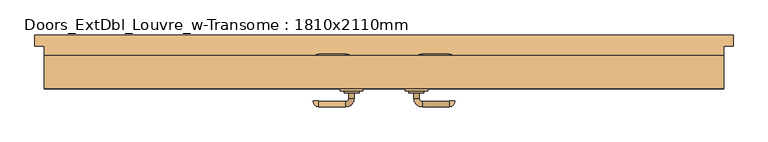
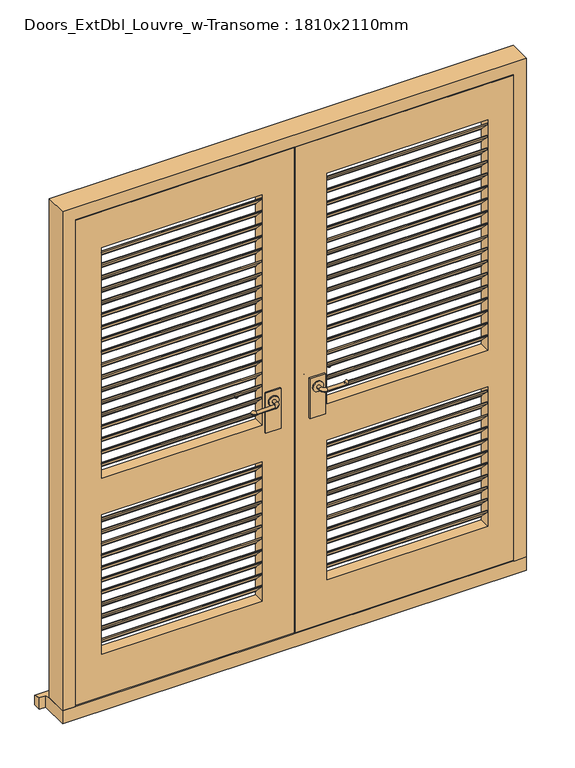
"""IFC4 building model written with IfcOpenShell, lengths in millimetres: door geometry, Doors_ExtDbl_Louvre_w-Transome : 1810x2110mm."""

from ifc_helpers import new_model, si_unit, point, frame, frame_2d, origin, place, context, project, spatial, polyline, circle_curve, ellipse_curve, trimmed, segment, composite_curve, outline, extrude, faceted_brep, source, transform, mapped, element, save
from ifc_brep_helpers import plane_surface, cylinder_surface, revolved_surface, advanced_brep


def doors_extdbl_louvre_w_transome_1810x2110mm_eca85ab6(model_context):
    return source(origin(), model_context, "Body", "SolidModel", [
        extrude(outline(composite_curve([segment(trimmed(circle_curve(frame_2d((1050.0, 86.5)), 20.0), [point((1050.0, 66.5))], [point((1050.0, 106.5))], False, "CARTESIAN"), True, "CONTINUOUS"), segment(trimmed(circle_curve(frame_2d((1050.0, 86.5)), 20.0), [point((1050.0, 106.5))], [point((1050.0, 66.5))], False, "CARTESIAN"), True, "CONTINUOUS")], self_intersect=False)), frame((0.0, -17.0929895, 0.0), z_axis=(0.0, 1.0, 0.0), x_axis=(0.0, 0.0, 1.0)), (0.0, 0.0, 1.0), 4.5929895),
        advanced_brep(
        [(93.5, -17.0929895, 1050.0), (79.5, -17.0929895, 1050.0), (79.5, -32.5, 1050.0), (93.5, -32.5, 1050.0), (101.5, -54.5, 1050.0), (101.5, -40.5, 1050.0), (173.5, -54.5, 1050.0), (173.5, -40.5, 1050.0), (174.5, -39.5, 1050.0), (188.5, -39.5, 1050.0)],
        [
            (0, 1, circle_curve(frame((86.5, -17.0929895, 1050.0), z_axis=(0.0, 1.0, 0.0), x_axis=(-1.0, 0.0, 0.0)), 7.0)),
            (1, 0, circle_curve(frame((86.5, -17.0929895, 1050.0), z_axis=(0.0, 1.0, 0.0), x_axis=(-1.0, 0.0, 0.0)), 7.0)),
            (1, 2),
            (2, 3, circle_curve(frame((86.5, -32.5, 1050.0), z_axis=(0.0, 1.0, 0.0), x_axis=(-1.0, 0.0, 0.0)), 7.0)),
            (3, 0),
            (3, 2, circle_curve(frame((86.5, -32.5, 1050.0), z_axis=(0.0, 1.0, 0.0), x_axis=(-1.0, 0.0, 0.0)), 7.0)),
            (4, 5, circle_curve(frame((101.5, -47.5, 1050.0), z_axis=(-1.0, 0.0, 0.0), x_axis=(0.0, -1.0, 0.0)), 7.0)),
            (5, 3, circle_curve(frame((101.5, -32.5, 1050.0), z_axis=(0.0, 0.0, -1.0), x_axis=(-1.0, 0.0, 0.0)), 8.0)),
            (2, 4, circle_curve(frame((101.5, -32.5, 1050.0), z_axis=(0.0, 0.0, 1.0), x_axis=(-1.0, 0.0, 0.0)), 22.0)),
            (5, 4, circle_curve(frame((101.5, -47.5, 1050.0), z_axis=(-1.0, 0.0, 0.0), x_axis=(0.0, -1.0, 0.0)), 7.0)),
            (4, 6),
            (6, 7, circle_curve(frame((173.5, -47.5, 1050.0), z_axis=(-1.0, 0.0, 0.0), x_axis=(0.0, -1.0, 0.0)), 7.0)),
            (7, 5),
            (7, 6, circle_curve(frame((173.5, -47.5, 1050.0), z_axis=(-1.0, 0.0, 0.0), x_axis=(0.0, -1.0, 0.0)), 7.0)),
            (8, 9, circle_curve(frame((181.5, -39.5, 1050.0), z_axis=(0.0, 1.0, 0.0), x_axis=(1.0, 0.0, 0.0)), 7.0)),
            (9, 8, circle_curve(frame((181.5, -39.5, 1050.0), z_axis=(0.0, 1.0, 0.0), x_axis=(1.0, 0.0, 0.0)), 7.0)),
            (8, 7, circle_curve(frame((173.5, -39.5, 1050.0), z_axis=(0.0, 0.0, -1.0), x_axis=(0.0, -1.0, 0.0)), 1.0)),
            (6, 9, circle_curve(frame((173.5, -39.5, 1050.0), z_axis=(0.0, 0.0, 1.0), x_axis=(0.0, -1.0, 0.0)), 15.0)),
        ],
        [
            plane_surface(frame((86.5, -17.0929895, 1050.0), z_axis=(0.0, 1.0, 0.0), x_axis=(0.0, 0.0, 1.0))),
            cylinder_surface(frame((86.5, -17.0929895, 1050.0), z_axis=(0.0, 1.0, 0.0), x_axis=(-1.0, 0.0, 0.0)), 7.0),
            revolved_surface(trimmed(ellipse_curve(frame((86.5, -32.5, 1050.0), z_axis=(0.0, -1.0, 0.0), x_axis=(-1.0, 0.0, 0.0)), 7.0, 7.0), [point((93.5, -32.5, 1050.0))], [point((79.5, -32.5, 1050.0))], True, "CARTESIAN"), (101.5, -32.5, 1050.0), (0.0, 0.0, -1.0)),
            revolved_surface(trimmed(ellipse_curve(frame((86.5, -32.5, 1050.0), z_axis=(0.0, -1.0, 0.0), x_axis=(-1.0, 0.0, 0.0)), 7.0, 7.0), [point((79.5, -32.5, 1050.0))], [point((93.5, -32.5, 1050.0))], True, "CARTESIAN"), (101.5, -32.5, 1050.0), (0.0, 0.0, -1.0)),
            cylinder_surface(frame((101.5, -47.5, 1050.0), z_axis=(-1.0, 0.0, 0.0), x_axis=(0.0, -1.0, 0.0)), 7.0),
            plane_surface(frame((181.5, -39.5, 1050.0), z_axis=(0.0, 1.0, 0.0), x_axis=(0.0, 0.0, 1.0))),
            revolved_surface(trimmed(ellipse_curve(frame((173.5, -47.5, 1050.0), z_axis=(1.0, 0.0, 0.0), x_axis=(0.0, -1.0, 0.0)), 7.0, 7.0), [point((173.5, -40.5, 1050.0))], [point((173.5, -54.5, 1050.0))], True, "CARTESIAN"), (173.5, -39.5, 1050.0), (0.0, 0.0, -1.0)),
            revolved_surface(trimmed(ellipse_curve(frame((173.5, -47.5, 1050.0), z_axis=(1.0, 0.0, 0.0), x_axis=(0.0, -1.0, 0.0)), 7.0, 7.0), [point((173.5, -54.5, 1050.0))], [point((173.5, -40.5, 1050.0))], True, "CARTESIAN"), (173.5, -39.5, 1050.0), (0.0, 0.0, -1.0)),
        ],
        [
            (0, [[1, 2]]),
            (1, [[3, 4, 5, -2]]),
            (1, [[-5, 6, -3, -1]]),
            (2, [[7, 8, -4, 9]]),
            (3, [[10, -9, -6, -8]]),
            (4, [[11, 12, 13, -7]]),
            (4, [[-13, 14, -11, -10]]),
            (5, [[15, 16]]),
            (6, [[-15, 17, -12, 18]]),
            (7, [[-16, -18, -14, -17]]),
        ],
    ),
        extrude(outline(polyline([(116.5, -6.5), (116.5, -12.5), (56.5, -12.5), (56.5, -6.5), (116.5, -6.5)])), frame((0.0, 0.0, 925.0), z_axis=(0.0, 0.0, 1.0), x_axis=(1.0, 0.0, 0.0)), (0.0, 0.0, 1.0), 165.0),
        extrude(outline(composite_curve([segment(trimmed(circle_curve(frame_2d((1050.0, -86.5)), 20.0), [point((1050.0, -66.5))], [point((1050.0, -106.5))], False, "CARTESIAN"), True, "CONTINUOUS"), segment(trimmed(circle_curve(frame_2d((1050.0, -86.5)), 20.0), [point((1050.0, -106.5))], [point((1050.0, -66.5))], False, "CARTESIAN"), True, "CONTINUOUS")], self_intersect=False)), frame((0.0, -17.0929895, 0.0), z_axis=(0.0, 1.0, 0.0), x_axis=(0.0, 0.0, 1.0)), (0.0, 0.0, 1.0), 4.5929895),
        advanced_brep(
        [(-93.5, -17.0929895, 1050.0), (-79.5, -17.0929895, 1050.0), (-93.5, -32.5, 1050.0), (-79.5, -32.5, 1050.0), (-101.5, -54.5, 1050.0), (-101.5, -40.5, 1050.0), (-173.5, -40.5, 1050.0), (-173.5, -54.5, 1050.0), (-174.5, -39.5, 1050.0), (-188.5, -39.5, 1050.0)],
        [
            (0, 1, circle_curve(frame((-86.5, -17.0929895, 1050.0), z_axis=(0.0, 1.0, 0.0), x_axis=(1.0, 0.0, 0.0)), 7.0)),
            (1, 0, circle_curve(frame((-86.5, -17.0929895, 1050.0), z_axis=(0.0, 1.0, 0.0), x_axis=(1.0, 0.0, 0.0)), 7.0)),
            (0, 2),
            (2, 3, circle_curve(frame((-86.5, -32.5, 1050.0), z_axis=(0.0, 1.0, 0.0), x_axis=(1.0, 0.0, 0.0)), 7.0)),
            (3, 1),
            (3, 2, circle_curve(frame((-86.5, -32.5, 1050.0), z_axis=(0.0, 1.0, 0.0), x_axis=(1.0, 0.0, 0.0)), 7.0)),
            (4, 3, circle_curve(frame((-101.5, -32.5, 1050.0), z_axis=(0.0, 0.0, 1.0), x_axis=(1.0, 0.0, 0.0)), 22.0)),
            (2, 5, circle_curve(frame((-101.5, -32.5, 1050.0), z_axis=(0.0, 0.0, -1.0), x_axis=(1.0, 0.0, 0.0)), 8.0)),
            (5, 4, circle_curve(frame((-101.5, -47.5, 1050.0), z_axis=(1.0, 0.0, 0.0), x_axis=(0.0, -1.0, 0.0)), 7.0)),
            (4, 5, circle_curve(frame((-101.5, -47.5, 1050.0), z_axis=(1.0, 0.0, 0.0), x_axis=(0.0, -1.0, 0.0)), 7.0)),
            (5, 6),
            (6, 7, circle_curve(frame((-173.5, -47.5, 1050.0), z_axis=(1.0, 0.0, 0.0), x_axis=(0.0, -1.0, 0.0)), 7.0)),
            (7, 4),
            (7, 6, circle_curve(frame((-173.5, -47.5, 1050.0), z_axis=(1.0, 0.0, 0.0), x_axis=(0.0, -1.0, 0.0)), 7.0)),
            (8, 9, circle_curve(frame((-181.5, -39.5, 1050.0), z_axis=(0.0, 1.0, 0.0), x_axis=(-1.0, 0.0, 0.0)), 7.0)),
            (9, 8, circle_curve(frame((-181.5, -39.5, 1050.0), z_axis=(0.0, 1.0, 0.0), x_axis=(-1.0, 0.0, 0.0)), 7.0)),
            (9, 7, circle_curve(frame((-173.5, -39.5, 1050.0), z_axis=(0.0, 0.0, 1.0), x_axis=(0.0, -1.0, 0.0)), 15.0)),
            (6, 8, circle_curve(frame((-173.5, -39.5, 1050.0), z_axis=(0.0, 0.0, -1.0), x_axis=(0.0, -1.0, 0.0)), 1.0)),
        ],
        [
            plane_surface(frame((-86.5, -17.0929895, 1050.0), z_axis=(0.0, 1.0, 0.0), x_axis=(0.0, 0.0, 1.0))),
            cylinder_surface(frame((-86.5, -17.0929895, 1050.0), z_axis=(0.0, 1.0, 0.0), x_axis=(1.0, 0.0, 0.0)), 7.0),
            revolved_surface(trimmed(ellipse_curve(frame((-86.5, -32.5, 1050.0), z_axis=(0.0, 1.0, 0.0), x_axis=(1.0, 0.0, 0.0)), 7.0, 7.0), [point((-93.5, -32.5, 1050.0))], [point((-79.5, -32.5, 1050.0))], True, "CARTESIAN"), (-101.5, -32.5, 1050.0), (0.0, 0.0, -1.0)),
            revolved_surface(trimmed(ellipse_curve(frame((-86.5, -32.5, 1050.0), z_axis=(0.0, 1.0, 0.0), x_axis=(1.0, 0.0, 0.0)), 7.0, 7.0), [point((-79.5, -32.5, 1050.0))], [point((-93.5, -32.5, 1050.0))], True, "CARTESIAN"), (-101.5, -32.5, 1050.0), (0.0, 0.0, -1.0)),
            cylinder_surface(frame((-101.5, -47.5, 1050.0), z_axis=(1.0, 0.0, 0.0), x_axis=(0.0, -1.0, 0.0)), 7.0),
            plane_surface(frame((-181.5, -39.5, 1050.0), z_axis=(0.0, 1.0, 0.0), x_axis=(0.0, 0.0, 1.0))),
            revolved_surface(trimmed(ellipse_curve(frame((-173.5, -47.5, 1050.0), z_axis=(1.0, 0.0, 0.0), x_axis=(0.0, -1.0, 0.0)), 7.0, 7.0), [point((-173.5, -40.5, 1050.0))], [point((-173.5, -54.5, 1050.0))], True, "CARTESIAN"), (-173.5, -39.5, 1050.0), (0.0, 0.0, -1.0)),
            revolved_surface(trimmed(ellipse_curve(frame((-173.5, -47.5, 1050.0), z_axis=(1.0, 0.0, 0.0), x_axis=(0.0, -1.0, 0.0)), 7.0, 7.0), [point((-173.5, -54.5, 1050.0))], [point((-173.5, -40.5, 1050.0))], True, "CARTESIAN"), (-173.5, -39.5, 1050.0), (0.0, 0.0, -1.0)),
        ],
        [
            (0, [[1, 2]]),
            (1, [[-1, 3, 4, 5]]),
            (1, [[-2, -5, 6, -3]]),
            (2, [[7, -4, 8, 9]]),
            (3, [[-8, -6, -7, 10]]),
            (4, [[-9, 11, 12, 13]]),
            (4, [[-10, -13, 14, -11]]),
            (5, [[15, 16]]),
            (6, [[17, -12, 18, -16]]),
            (7, [[-18, -14, -17, -15]]),
        ],
    ),
        extrude(outline(polyline([(-116.5, -6.5), (-56.5, -6.5), (-56.5, -12.5), (-116.5, -12.5), (-116.5, -6.5)])), frame((0.0, 0.0, 925.0), z_axis=(0.0, 0.0, 1.0), x_axis=(1.0, 0.0, 0.0)), (0.0, 0.0, 1.0), 165.0),
        extrude(outline(composite_curve([segment(trimmed(circle_curve(frame_2d((1050.0, -86.5)), 20.0), [point((1050.0, -66.5))], [point((1050.0, -106.5))], False, "CARTESIAN"), True, "CONTINUOUS"), segment(trimmed(circle_curve(frame_2d((1050.0, -86.5)), 20.0), [point((1050.0, -106.5))], [point((1050.0, -66.5))], False, "CARTESIAN"), True, "CONTINUOUS")], self_intersect=False)), frame((0.0, 43.5, 0.0), z_axis=(0.0, 1.0, 0.0), x_axis=(0.0, 0.0, 1.0)), (0.0, 0.0, 1.0), 4.5929895),
        advanced_brep(
        [(-93.5, 48.0929895, 1050.0), (-79.5, 48.0929895, 1050.0), (-79.5, 63.5, 1050.0), (-93.5, 63.5, 1050.0), (-101.5, 85.5, 1050.0), (-101.5, 71.5, 1050.0), (-173.5, 85.5, 1050.0), (-173.5, 71.5, 1050.0), (-174.5, 70.5, 1050.0), (-188.5, 70.5, 1050.0)],
        [
            (0, 1, circle_curve(frame((-86.5, 48.0929895, 1050.0), z_axis=(0.0, -1.0, 0.0), x_axis=(1.0, 0.0, 0.0)), 7.0)),
            (1, 0, circle_curve(frame((-86.5, 48.0929895, 1050.0), z_axis=(0.0, -1.0, 0.0), x_axis=(1.0, 0.0, 0.0)), 7.0)),
            (1, 2),
            (2, 3, circle_curve(frame((-86.5, 63.5, 1050.0), z_axis=(0.0, -1.0, 0.0), x_axis=(1.0, 0.0, 0.0)), 7.0)),
            (3, 0),
            (3, 2, circle_curve(frame((-86.5, 63.5, 1050.0), z_axis=(0.0, -1.0, 0.0), x_axis=(1.0, 0.0, 0.0)), 7.0)),
            (4, 5, circle_curve(frame((-101.5, 78.5, 1050.0), z_axis=(1.0, 0.0, 0.0), x_axis=(0.0, 1.0, 0.0)), 7.0)),
            (5, 3, circle_curve(frame((-101.5, 63.5, 1050.0), z_axis=(0.0, 0.0, -1.0), x_axis=(1.0, 0.0, 0.0)), 8.0)),
            (2, 4, circle_curve(frame((-101.5, 63.5, 1050.0), z_axis=(0.0, 0.0, 1.0), x_axis=(1.0, 0.0, 0.0)), 22.0)),
            (5, 4, circle_curve(frame((-101.5, 78.5, 1050.0), z_axis=(1.0, 0.0, 0.0), x_axis=(0.0, 1.0, 0.0)), 7.0)),
            (4, 6),
            (6, 7, circle_curve(frame((-173.5, 78.5, 1050.0), z_axis=(1.0, 0.0, 0.0), x_axis=(0.0, 1.0, 0.0)), 7.0)),
            (7, 5),
            (7, 6, circle_curve(frame((-173.5, 78.5, 1050.0), z_axis=(1.0, 0.0, 0.0), x_axis=(0.0, 1.0, 0.0)), 7.0)),
            (8, 9, circle_curve(frame((-181.5, 70.5, 1050.0), z_axis=(0.0, -1.0, 0.0), x_axis=(-1.0, 0.0, 0.0)), 7.0)),
            (9, 8, circle_curve(frame((-181.5, 70.5, 1050.0), z_axis=(0.0, -1.0, 0.0), x_axis=(-1.0, 0.0, 0.0)), 7.0)),
            (8, 7, circle_curve(frame((-173.5, 70.5, 1050.0), z_axis=(0.0, 0.0, -1.0), x_axis=(0.0, 1.0, 0.0)), 1.0)),
            (6, 9, circle_curve(frame((-173.5, 70.5, 1050.0), z_axis=(0.0, 0.0, 1.0), x_axis=(0.0, 1.0, 0.0)), 15.0)),
        ],
        [
            plane_surface(frame((-86.5, 48.0929895, 1050.0), z_axis=(0.0, -1.0, 0.0), x_axis=(0.0, 0.0, 1.0))),
            cylinder_surface(frame((-86.5, 48.0929895, 1050.0), z_axis=(0.0, -1.0, 0.0), x_axis=(1.0, 0.0, 0.0)), 7.0),
            revolved_surface(trimmed(ellipse_curve(frame((-86.5, 63.5, 1050.0), z_axis=(0.0, 1.0, 0.0), x_axis=(1.0, 0.0, 0.0)), 7.0, 7.0), [point((-93.5, 63.5, 1050.0))], [point((-79.5, 63.5, 1050.0))], True, "CARTESIAN"), (-101.5, 63.5, 1050.0), (0.0, 0.0, -1.0)),
            revolved_surface(trimmed(ellipse_curve(frame((-86.5, 63.5, 1050.0), z_axis=(0.0, 1.0, 0.0), x_axis=(1.0, 0.0, 0.0)), 7.0, 7.0), [point((-79.5, 63.5, 1050.0))], [point((-93.5, 63.5, 1050.0))], True, "CARTESIAN"), (-101.5, 63.5, 1050.0), (0.0, 0.0, -1.0)),
            cylinder_surface(frame((-101.5, 78.5, 1050.0), z_axis=(1.0, 0.0, 0.0), x_axis=(0.0, 1.0, 0.0)), 7.0),
            plane_surface(frame((-181.5, 70.5, 1050.0), z_axis=(0.0, -1.0, 0.0), x_axis=(0.0, 0.0, 1.0))),
            revolved_surface(trimmed(ellipse_curve(frame((-173.5, 78.5, 1050.0), z_axis=(-1.0, 0.0, 0.0), x_axis=(0.0, 1.0, 0.0)), 7.0, 7.0), [point((-173.5, 71.5, 1050.0))], [point((-173.5, 85.5, 1050.0))], True, "CARTESIAN"), (-173.5, 70.5, 1050.0), (0.0, 0.0, -1.0)),
            revolved_surface(trimmed(ellipse_curve(frame((-173.5, 78.5, 1050.0), z_axis=(-1.0, 0.0, 0.0), x_axis=(0.0, 1.0, 0.0)), 7.0, 7.0), [point((-173.5, 85.5, 1050.0))], [point((-173.5, 71.5, 1050.0))], True, "CARTESIAN"), (-173.5, 70.5, 1050.0), (0.0, 0.0, -1.0)),
        ],
        [
            (0, [[1, 2]]),
            (1, [[3, 4, 5, -2]]),
            (1, [[-5, 6, -3, -1]]),
            (2, [[7, 8, -4, 9]]),
            (3, [[10, -9, -6, -8]]),
            (4, [[11, 12, 13, -7]]),
            (4, [[-13, 14, -11, -10]]),
            (5, [[15, 16]]),
            (6, [[-15, 17, -12, 18]]),
            (7, [[-16, -18, -14, -17]]),
        ],
    ),
        extrude(outline(polyline([(-116.5, 37.5), (-116.5, 43.5), (-56.5, 43.5), (-56.5, 37.5), (-116.5, 37.5)])), frame((0.0, 0.0, 925.0), z_axis=(0.0, 0.0, 1.0), x_axis=(1.0, 0.0, 0.0)), (0.0, 0.0, 1.0), 165.0),
        extrude(outline(composite_curve([segment(trimmed(circle_curve(frame_2d((1050.0, 86.5)), 20.0), [point((1050.0, 66.5))], [point((1050.0, 106.5))], False, "CARTESIAN"), True, "CONTINUOUS"), segment(trimmed(circle_curve(frame_2d((1050.0, 86.5)), 20.0), [point((1050.0, 106.5))], [point((1050.0, 66.5))], False, "CARTESIAN"), True, "CONTINUOUS")], self_intersect=False)), frame((0.0, 43.5, 0.0), z_axis=(0.0, 1.0, 0.0), x_axis=(0.0, 0.0, 1.0)), (0.0, 0.0, 1.0), 4.5929895),
        advanced_brep(
        [(93.5, 48.0929895, 1050.0), (79.5, 48.0929895, 1050.0), (93.5, 63.5, 1050.0), (79.5, 63.5, 1050.0), (101.5, 85.5, 1050.0), (101.5, 71.5, 1050.0), (173.5, 71.5, 1050.0), (173.5, 85.5, 1050.0), (174.5, 70.5, 1050.0), (188.5, 70.5, 1050.0)],
        [
            (0, 1, circle_curve(frame((86.5, 48.0929895, 1050.0), z_axis=(0.0, -1.0, 0.0), x_axis=(-1.0, 0.0, 0.0)), 7.0)),
            (1, 0, circle_curve(frame((86.5, 48.0929895, 1050.0), z_axis=(0.0, -1.0, 0.0), x_axis=(-1.0, 0.0, 0.0)), 7.0)),
            (0, 2),
            (2, 3, circle_curve(frame((86.5, 63.5, 1050.0), z_axis=(0.0, -1.0, 0.0), x_axis=(-1.0, 0.0, 0.0)), 7.0)),
            (3, 1),
            (3, 2, circle_curve(frame((86.5, 63.5, 1050.0), z_axis=(0.0, -1.0, 0.0), x_axis=(-1.0, 0.0, 0.0)), 7.0)),
            (4, 3, circle_curve(frame((101.5, 63.5, 1050.0), z_axis=(0.0, 0.0, 1.0), x_axis=(-1.0, 0.0, 0.0)), 22.0)),
            (2, 5, circle_curve(frame((101.5, 63.5, 1050.0), z_axis=(0.0, 0.0, -1.0), x_axis=(-1.0, 0.0, 0.0)), 8.0)),
            (5, 4, circle_curve(frame((101.5, 78.5, 1050.0), z_axis=(-1.0, 0.0, 0.0), x_axis=(0.0, 1.0, 0.0)), 7.0)),
            (4, 5, circle_curve(frame((101.5, 78.5, 1050.0), z_axis=(-1.0, 0.0, 0.0), x_axis=(0.0, 1.0, 0.0)), 7.0)),
            (5, 6),
            (6, 7, circle_curve(frame((173.5, 78.5, 1050.0), z_axis=(-1.0, 0.0, 0.0), x_axis=(0.0, 1.0, 0.0)), 7.0)),
            (7, 4),
            (7, 6, circle_curve(frame((173.5, 78.5, 1050.0), z_axis=(-1.0, 0.0, 0.0), x_axis=(0.0, 1.0, 0.0)), 7.0)),
            (8, 9, circle_curve(frame((181.5, 70.5, 1050.0), z_axis=(0.0, -1.0, 0.0), x_axis=(1.0, 0.0, 0.0)), 7.0)),
            (9, 8, circle_curve(frame((181.5, 70.5, 1050.0), z_axis=(0.0, -1.0, 0.0), x_axis=(1.0, 0.0, 0.0)), 7.0)),
            (9, 7, circle_curve(frame((173.5, 70.5, 1050.0), z_axis=(0.0, 0.0, 1.0), x_axis=(0.0, 1.0, 0.0)), 15.0)),
            (6, 8, circle_curve(frame((173.5, 70.5, 1050.0), z_axis=(0.0, 0.0, -1.0), x_axis=(0.0, 1.0, 0.0)), 1.0)),
        ],
        [
            plane_surface(frame((86.5, 48.0929895, 1050.0), z_axis=(0.0, -1.0, 0.0), x_axis=(0.0, 0.0, 1.0))),
            cylinder_surface(frame((86.5, 48.0929895, 1050.0), z_axis=(0.0, -1.0, 0.0), x_axis=(-1.0, 0.0, 0.0)), 7.0),
            revolved_surface(trimmed(ellipse_curve(frame((86.5, 63.5, 1050.0), z_axis=(0.0, -1.0, 0.0), x_axis=(-1.0, 0.0, 0.0)), 7.0, 7.0), [point((93.5, 63.5, 1050.0))], [point((79.5, 63.5, 1050.0))], True, "CARTESIAN"), (101.5, 63.5, 1050.0), (0.0, 0.0, -1.0)),
            revolved_surface(trimmed(ellipse_curve(frame((86.5, 63.5, 1050.0), z_axis=(0.0, -1.0, 0.0), x_axis=(-1.0, 0.0, 0.0)), 7.0, 7.0), [point((79.5, 63.5, 1050.0))], [point((93.5, 63.5, 1050.0))], True, "CARTESIAN"), (101.5, 63.5, 1050.0), (0.0, 0.0, -1.0)),
            cylinder_surface(frame((101.5, 78.5, 1050.0), z_axis=(-1.0, 0.0, 0.0), x_axis=(0.0, 1.0, 0.0)), 7.0),
            plane_surface(frame((181.5, 70.5, 1050.0), z_axis=(0.0, -1.0, 0.0), x_axis=(0.0, 0.0, 1.0))),
            revolved_surface(trimmed(ellipse_curve(frame((173.5, 78.5, 1050.0), z_axis=(-1.0, 0.0, 0.0), x_axis=(0.0, 1.0, 0.0)), 7.0, 7.0), [point((173.5, 71.5, 1050.0))], [point((173.5, 85.5, 1050.0))], True, "CARTESIAN"), (173.5, 70.5, 1050.0), (0.0, 0.0, -1.0)),
            revolved_surface(trimmed(ellipse_curve(frame((173.5, 78.5, 1050.0), z_axis=(-1.0, 0.0, 0.0), x_axis=(0.0, 1.0, 0.0)), 7.0, 7.0), [point((173.5, 85.5, 1050.0))], [point((173.5, 71.5, 1050.0))], True, "CARTESIAN"), (173.5, 70.5, 1050.0), (0.0, 0.0, -1.0)),
        ],
        [
            (0, [[1, 2]]),
            (1, [[-1, 3, 4, 5]]),
            (1, [[-2, -5, 6, -3]]),
            (2, [[7, -4, 8, 9]]),
            (3, [[-8, -6, -7, 10]]),
            (4, [[-9, 11, 12, 13]]),
            (4, [[-10, -13, 14, -11]]),
            (5, [[15, 16]]),
            (6, [[17, -12, 18, -16]]),
            (7, [[-18, -14, -17, -15]]),
        ],
    ),
        extrude(outline(polyline([(116.5, 37.5), (56.5, 37.5), (56.5, 43.5), (116.5, 43.5), (116.5, 37.5)])), frame((0.0, 0.0, 925.0), z_axis=(0.0, 0.0, 1.0), x_axis=(1.0, 0.0, 0.0)), (0.0, 0.0, 1.0), 165.0),
        extrude(outline(polyline([(-2.5, 1838.2058824), (37.5, 1798.2058824), (37.5, 1794.2058824), (34.5, 1794.2058824), (34.5, 1796.9632417), (-5.5, 1836.9632417), (-5.5, 1842.2058824), (-2.5, 1842.2058824), (-2.5, 1838.2058824)])), frame((126.5, 0.0, 0.0), z_axis=(1.0, 0.0, 0.0), x_axis=(0.0, 1.0, 0.0)), (0.0, 0.0, 1.0), 627.0),
        extrude(outline(polyline([(-2.5, 1786.9117647), (37.5, 1746.9117647), (37.5, 1742.9117647), (34.5, 1742.9117647), (34.5, 1745.669124), (-5.5, 1785.669124), (-5.5, 1790.9117647), (-2.5, 1790.9117647), (-2.5, 1786.9117647)])), frame((126.5, 0.0, 0.0), z_axis=(1.0, 0.0, 0.0), x_axis=(0.0, 1.0, 0.0)), (0.0, 0.0, 1.0), 627.0),
        extrude(outline(polyline([(-2.5, 1735.6176471), (37.5, 1695.6176471), (37.5, 1691.6176471), (34.5, 1691.6176471), (34.5, 1694.3750064), (-5.5, 1734.3750064), (-5.5, 1739.6176471), (-2.5, 1739.6176471), (-2.5, 1735.6176471)])), frame((126.5, 0.0, 0.0), z_axis=(1.0, 0.0, 0.0), x_axis=(0.0, 1.0, 0.0)), (0.0, 0.0, 1.0), 627.0),
        extrude(outline(polyline([(-2.5, 1684.3235294), (37.5, 1644.3235294), (37.5, 1640.3235294), (34.5, 1640.3235294), (34.5, 1643.0808887), (-5.5, 1683.0808887), (-5.5, 1688.3235294), (-2.5, 1688.3235294), (-2.5, 1684.3235294)])), frame((126.5, 0.0, 0.0), z_axis=(1.0, 0.0, 0.0), x_axis=(0.0, 1.0, 0.0)), (0.0, 0.0, 1.0), 627.0),
        extrude(outline(polyline([(-2.5, 1633.0294118), (37.5, 1593.0294118), (37.5, 1589.0294118), (34.5, 1589.0294118), (34.5, 1591.7867711), (-5.5, 1631.7867711), (-5.5, 1637.0294118), (-2.5, 1637.0294118), (-2.5, 1633.0294118)])), frame((126.5, 0.0, 0.0), z_axis=(1.0, 0.0, 0.0), x_axis=(0.0, 1.0, 0.0)), (0.0, 0.0, 1.0), 627.0),
        extrude(outline(polyline([(-2.5, 1581.7352941), (37.5, 1541.7352941), (37.5, 1537.7352941), (34.5, 1537.7352941), (34.5, 1540.4926534), (-5.5, 1580.4926534), (-5.5, 1585.7352941), (-2.5, 1585.7352941), (-2.5, 1581.7352941)])), frame((126.5, 0.0, 0.0), z_axis=(1.0, 0.0, 0.0), x_axis=(0.0, 1.0, 0.0)), (0.0, 0.0, 1.0), 627.0),
        extrude(outline(polyline([(-2.5, 1530.4411765), (37.5, 1490.4411765), (37.5, 1486.4411765), (34.5, 1486.4411765), (34.5, 1489.1985358), (-5.5, 1529.1985358), (-5.5, 1534.4411765), (-2.5, 1534.4411765), (-2.5, 1530.4411765)])), frame((126.5, 0.0, 0.0), z_axis=(1.0, 0.0, 0.0), x_axis=(0.0, 1.0, 0.0)), (0.0, 0.0, 1.0), 627.0),
        extrude(outline(polyline([(-2.5, 1479.1470588), (37.5, 1439.1470588), (37.5, 1435.1470588), (34.5, 1435.1470588), (34.5, 1437.9044181), (-5.5, 1477.9044181), (-5.5, 1483.1470588), (-2.5, 1483.1470588), (-2.5, 1479.1470588)])), frame((126.5, 0.0, 0.0), z_axis=(1.0, 0.0, 0.0), x_axis=(0.0, 1.0, 0.0)), (0.0, 0.0, 1.0), 627.0),
        extrude(outline(polyline([(-2.5, 1427.8529412), (37.5, 1387.8529412), (37.5, 1383.8529412), (34.5, 1383.8529412), (34.5, 1386.6103005), (-5.5, 1426.6103005), (-5.5, 1431.8529412), (-2.5, 1431.8529412), (-2.5, 1427.8529412)])), frame((126.5, 0.0, 0.0), z_axis=(1.0, 0.0, 0.0), x_axis=(0.0, 1.0, 0.0)), (0.0, 0.0, 1.0), 627.0),
        extrude(outline(polyline([(-2.5, 1376.5588235), (37.5, 1336.5588235), (37.5, 1332.5588235), (34.5, 1332.5588235), (34.5, 1335.3161828), (-5.5, 1375.3161828), (-5.5, 1380.5588235), (-2.5, 1380.5588235), (-2.5, 1376.5588235)])), frame((126.5, 0.0, 0.0), z_axis=(1.0, 0.0, 0.0), x_axis=(0.0, 1.0, 0.0)), (0.0, 0.0, 1.0), 627.0),
        extrude(outline(polyline([(-2.5, 1325.2647059), (37.5, 1285.2647059), (37.5, 1281.2647059), (34.5, 1281.2647059), (34.5, 1284.0220652), (-5.5, 1324.0220652), (-5.5, 1329.2647059), (-2.5, 1329.2647059), (-2.5, 1325.2647059)])), frame((126.5, 0.0, 0.0), z_axis=(1.0, 0.0, 0.0), x_axis=(0.0, 1.0, 0.0)), (0.0, 0.0, 1.0), 627.0),
        extrude(outline(polyline([(-2.5, 1273.9705882), (37.5, 1233.9705882), (37.5, 1229.9705882), (34.5, 1229.9705882), (34.5, 1232.7279475), (-5.5, 1272.7279475), (-5.5, 1277.9705882), (-2.5, 1277.9705882), (-2.5, 1273.9705882)])), frame((126.5, 0.0, 0.0), z_axis=(1.0, 0.0, 0.0), x_axis=(0.0, 1.0, 0.0)), (0.0, 0.0, 1.0), 627.0),
        extrude(outline(polyline([(-2.5, 1222.6764706), (37.5, 1182.6764706), (37.5, 1178.6764706), (34.5, 1178.6764706), (34.5, 1181.4338299), (-5.5, 1221.4338299), (-5.5, 1226.6764706), (-2.5, 1226.6764706), (-2.5, 1222.6764706)])), frame((126.5, 0.0, 0.0), z_axis=(1.0, 0.0, 0.0), x_axis=(0.0, 1.0, 0.0)), (0.0, 0.0, 1.0), 627.0),
        extrude(outline(polyline([(-2.5, 1171.3823529), (37.5, 1131.3823529), (37.5, 1127.3823529), (34.5, 1127.3823529), (34.5, 1130.1397123), (-5.5, 1170.1397123), (-5.5, 1175.3823529), (-2.5, 1175.3823529), (-2.5, 1171.3823529)])), frame((126.5, 0.0, 0.0), z_axis=(1.0, 0.0, 0.0), x_axis=(0.0, 1.0, 0.0)), (0.0, 0.0, 1.0), 627.0),
        extrude(outline(polyline([(-2.5, 1120.0882353), (37.5, 1080.0882353), (37.5, 1076.0882353), (34.5, 1076.0882353), (34.5, 1078.8455946), (-5.5, 1118.8455946), (-5.5, 1124.0882353), (-2.5, 1124.0882353), (-2.5, 1120.0882353)])), frame((126.5, 0.0, 0.0), z_axis=(1.0, 0.0, 0.0), x_axis=(0.0, 1.0, 0.0)), (0.0, 0.0, 1.0), 627.0),
        extrude(outline(polyline([(-2.5, 1068.7941176), (37.5, 1028.7941176), (37.5, 1024.7941176), (34.5, 1024.7941176), (34.5, 1027.551477), (-5.5, 1067.551477), (-5.5, 1072.7941176), (-2.5, 1072.7941176), (-2.5, 1068.7941176)])), frame((126.5, 0.0, 0.0), z_axis=(1.0, 0.0, 0.0), x_axis=(0.0, 1.0, 0.0)), (0.0, 0.0, 1.0), 627.0),
        extrude(outline(polyline([(-2.5, 739.8), (37.5, 699.8), (37.5, 695.8), (34.5, 695.8), (34.5, 698.5573593), (-5.5, 738.5573593), (-5.5, 743.8), (-2.5, 743.8), (-2.5, 739.8)])), frame((126.5, 0.0, 0.0), z_axis=(1.0, 0.0, 0.0), x_axis=(0.0, 1.0, 0.0)), (0.0, 0.0, 1.0), 627.0),
        extrude(outline(polyline([(-2.5, 690.1), (37.5, 650.1), (37.5, 646.1), (34.5, 646.1), (34.5, 648.8573593), (-5.5, 688.8573593), (-5.5, 694.1), (-2.5, 694.1), (-2.5, 690.1)])), frame((126.5, 0.0, 0.0), z_axis=(1.0, 0.0, 0.0), x_axis=(0.0, 1.0, 0.0)), (0.0, 0.0, 1.0), 627.0),
        extrude(outline(polyline([(-2.5, 640.4), (37.5, 600.4), (37.5, 596.4), (34.5, 596.4), (34.5, 599.1573593), (-5.5, 639.1573593), (-5.5, 644.4), (-2.5, 644.4), (-2.5, 640.4)])), frame((126.5, 0.0, 0.0), z_axis=(1.0, 0.0, 0.0), x_axis=(0.0, 1.0, 0.0)), (0.0, 0.0, 1.0), 627.0),
        extrude(outline(polyline([(-2.5, 590.7), (37.5, 550.7), (37.5, 546.7), (34.5, 546.7), (34.5, 549.4573593), (-5.5, 589.4573593), (-5.5, 594.7), (-2.5, 594.7), (-2.5, 590.7)])), frame((126.5, 0.0, 0.0), z_axis=(1.0, 0.0, 0.0), x_axis=(0.0, 1.0, 0.0)), (0.0, 0.0, 1.0), 627.0),
        extrude(outline(polyline([(-2.5, 541.0), (37.5, 501.0), (37.5, 497.0), (34.5, 497.0), (34.5, 499.7573593), (-5.5, 539.7573593), (-5.5, 545.0), (-2.5, 545.0), (-2.5, 541.0)])), frame((126.5, 0.0, 0.0), z_axis=(1.0, 0.0, 0.0), x_axis=(0.0, 1.0, 0.0)), (0.0, 0.0, 1.0), 627.0),
        extrude(outline(polyline([(-2.5, 491.3), (37.5, 451.3), (37.5, 447.3), (34.5, 447.3), (34.5, 450.0573593), (-5.5, 490.0573593), (-5.5, 495.3), (-2.5, 495.3), (-2.5, 491.3)])), frame((126.5, 0.0, 0.0), z_axis=(1.0, 0.0, 0.0), x_axis=(0.0, 1.0, 0.0)), (0.0, 0.0, 1.0), 627.0),
        extrude(outline(polyline([(-2.5, 441.6), (37.5, 401.6), (37.5, 397.6), (34.5, 397.6), (34.5, 400.3573593), (-5.5, 440.3573593), (-5.5, 445.6), (-2.5, 445.6), (-2.5, 441.6)])), frame((126.5, 0.0, 0.0), z_axis=(1.0, 0.0, 0.0), x_axis=(0.0, 1.0, 0.0)), (0.0, 0.0, 1.0), 627.0),
        extrude(outline(polyline([(-2.5, 391.9), (37.5, 351.9), (37.5, 347.9), (34.5, 347.9), (34.5, 350.6573593), (-5.5, 390.6573593), (-5.5, 395.9), (-2.5, 395.9), (-2.5, 391.9)])), frame((126.5, 0.0, 0.0), z_axis=(1.0, 0.0, 0.0), x_axis=(0.0, 1.0, 0.0)), (0.0, 0.0, 1.0), 627.0),
        extrude(outline(polyline([(-2.5, 342.2), (37.5, 302.2), (37.5, 298.2), (34.5, 298.2), (34.5, 300.9573593), (-5.5, 340.9573593), (-5.5, 346.2), (-2.5, 346.2), (-2.5, 342.2)])), frame((126.5, 0.0, 0.0), z_axis=(1.0, 0.0, 0.0), x_axis=(0.0, 1.0, 0.0)), (0.0, 0.0, 1.0), 627.0),
        extrude(outline(polyline([(-2.5, 1838.2058824), (37.5, 1798.2058824), (37.5, 1794.2058824), (34.5, 1794.2058824), (34.5, 1796.9632417), (-5.5, 1836.9632417), (-5.5, 1842.2058824), (-2.5, 1842.2058824), (-2.5, 1838.2058824)])), frame((-753.5, 0.0, 0.0), z_axis=(1.0, 0.0, 0.0), x_axis=(0.0, 1.0, 0.0)), (0.0, 0.0, 1.0), 627.0),
        extrude(outline(polyline([(-2.5, 1786.9117647), (37.5, 1746.9117647), (37.5, 1742.9117647), (34.5, 1742.9117647), (34.5, 1745.669124), (-5.5, 1785.669124), (-5.5, 1790.9117647), (-2.5, 1790.9117647), (-2.5, 1786.9117647)])), frame((-753.5, 0.0, 0.0), z_axis=(1.0, 0.0, 0.0), x_axis=(0.0, 1.0, 0.0)), (0.0, 0.0, 1.0), 627.0),
        extrude(outline(polyline([(-2.5, 1735.6176471), (37.5, 1695.6176471), (37.5, 1691.6176471), (34.5, 1691.6176471), (34.5, 1694.3750064), (-5.5, 1734.3750064), (-5.5, 1739.6176471), (-2.5, 1739.6176471), (-2.5, 1735.6176471)])), frame((-753.5, 0.0, 0.0), z_axis=(1.0, 0.0, 0.0), x_axis=(0.0, 1.0, 0.0)), (0.0, 0.0, 1.0), 627.0),
        extrude(outline(polyline([(-2.5, 1684.3235294), (37.5, 1644.3235294), (37.5, 1640.3235294), (34.5, 1640.3235294), (34.5, 1643.0808887), (-5.5, 1683.0808887), (-5.5, 1688.3235294), (-2.5, 1688.3235294), (-2.5, 1684.3235294)])), frame((-753.5, 0.0, 0.0), z_axis=(1.0, 0.0, 0.0), x_axis=(0.0, 1.0, 0.0)), (0.0, 0.0, 1.0), 627.0),
        extrude(outline(polyline([(-2.5, 1633.0294118), (37.5, 1593.0294118), (37.5, 1589.0294118), (34.5, 1589.0294118), (34.5, 1591.7867711), (-5.5, 1631.7867711), (-5.5, 1637.0294118), (-2.5, 1637.0294118), (-2.5, 1633.0294118)])), frame((-753.5, 0.0, 0.0), z_axis=(1.0, 0.0, 0.0), x_axis=(0.0, 1.0, 0.0)), (0.0, 0.0, 1.0), 627.0),
        extrude(outline(polyline([(-2.5, 1581.7352941), (37.5, 1541.7352941), (37.5, 1537.7352941), (34.5, 1537.7352941), (34.5, 1540.4926534), (-5.5, 1580.4926534), (-5.5, 1585.7352941), (-2.5, 1585.7352941), (-2.5, 1581.7352941)])), frame((-753.5, 0.0, 0.0), z_axis=(1.0, 0.0, 0.0), x_axis=(0.0, 1.0, 0.0)), (0.0, 0.0, 1.0), 627.0),
        extrude(outline(polyline([(-2.5, 1530.4411765), (37.5, 1490.4411765), (37.5, 1486.4411765), (34.5, 1486.4411765), (34.5, 1489.1985358), (-5.5, 1529.1985358), (-5.5, 1534.4411765), (-2.5, 1534.4411765), (-2.5, 1530.4411765)])), frame((-753.5, 0.0, 0.0), z_axis=(1.0, 0.0, 0.0), x_axis=(0.0, 1.0, 0.0)), (0.0, 0.0, 1.0), 627.0),
        extrude(outline(polyline([(-2.5, 1479.1470588), (37.5, 1439.1470588), (37.5, 1435.1470588), (34.5, 1435.1470588), (34.5, 1437.9044181), (-5.5, 1477.9044181), (-5.5, 1483.1470588), (-2.5, 1483.1470588), (-2.5, 1479.1470588)])), frame((-753.5, 0.0, 0.0), z_axis=(1.0, 0.0, 0.0), x_axis=(0.0, 1.0, 0.0)), (0.0, 0.0, 1.0), 627.0),
        extrude(outline(polyline([(-2.5, 1427.8529412), (37.5, 1387.8529412), (37.5, 1383.8529412), (34.5, 1383.8529412), (34.5, 1386.6103005), (-5.5, 1426.6103005), (-5.5, 1431.8529412), (-2.5, 1431.8529412), (-2.5, 1427.8529412)])), frame((-753.5, 0.0, 0.0), z_axis=(1.0, 0.0, 0.0), x_axis=(0.0, 1.0, 0.0)), (0.0, 0.0, 1.0), 627.0),
        extrude(outline(polyline([(-2.5, 1376.5588235), (37.5, 1336.5588235), (37.5, 1332.5588235), (34.5, 1332.5588235), (34.5, 1335.3161828), (-5.5, 1375.3161828), (-5.5, 1380.5588235), (-2.5, 1380.5588235), (-2.5, 1376.5588235)])), frame((-753.5, 0.0, 0.0), z_axis=(1.0, 0.0, 0.0), x_axis=(0.0, 1.0, 0.0)), (0.0, 0.0, 1.0), 627.0),
        extrude(outline(polyline([(-2.5, 1325.2647059), (37.5, 1285.2647059), (37.5, 1281.2647059), (34.5, 1281.2647059), (34.5, 1284.0220652), (-5.5, 1324.0220652), (-5.5, 1329.2647059), (-2.5, 1329.2647059), (-2.5, 1325.2647059)])), frame((-753.5, 0.0, 0.0), z_axis=(1.0, 0.0, 0.0), x_axis=(0.0, 1.0, 0.0)), (0.0, 0.0, 1.0), 627.0),
        extrude(outline(polyline([(-2.5, 1273.9705882), (37.5, 1233.9705882), (37.5, 1229.9705882), (34.5, 1229.9705882), (34.5, 1232.7279475), (-5.5, 1272.7279475), (-5.5, 1277.9705882), (-2.5, 1277.9705882), (-2.5, 1273.9705882)])), frame((-753.5, 0.0, 0.0), z_axis=(1.0, 0.0, 0.0), x_axis=(0.0, 1.0, 0.0)), (0.0, 0.0, 1.0), 627.0),
        extrude(outline(polyline([(-2.5, 1222.6764706), (37.5, 1182.6764706), (37.5, 1178.6764706), (34.5, 1178.6764706), (34.5, 1181.4338299), (-5.5, 1221.4338299), (-5.5, 1226.6764706), (-2.5, 1226.6764706), (-2.5, 1222.6764706)])), frame((-753.5, 0.0, 0.0), z_axis=(1.0, 0.0, 0.0), x_axis=(0.0, 1.0, 0.0)), (0.0, 0.0, 1.0), 627.0),
        extrude(outline(polyline([(-2.5, 1171.3823529), (37.5, 1131.3823529), (37.5, 1127.3823529), (34.5, 1127.3823529), (34.5, 1130.1397123), (-5.5, 1170.1397123), (-5.5, 1175.3823529), (-2.5, 1175.3823529), (-2.5, 1171.3823529)])), frame((-753.5, 0.0, 0.0), z_axis=(1.0, 0.0, 0.0), x_axis=(0.0, 1.0, 0.0)), (0.0, 0.0, 1.0), 627.0),
        extrude(outline(polyline([(-2.5, 1120.0882353), (37.5, 1080.0882353), (37.5, 1076.0882353), (34.5, 1076.0882353), (34.5, 1078.8455946), (-5.5, 1118.8455946), (-5.5, 1124.0882353), (-2.5, 1124.0882353), (-2.5, 1120.0882353)])), frame((-753.5, 0.0, 0.0), z_axis=(1.0, 0.0, 0.0), x_axis=(0.0, 1.0, 0.0)), (0.0, 0.0, 1.0), 627.0),
        extrude(outline(polyline([(-2.5, 1068.7941176), (37.5, 1028.7941176), (37.5, 1024.7941176), (34.5, 1024.7941176), (34.5, 1027.551477), (-5.5, 1067.551477), (-5.5, 1072.7941176), (-2.5, 1072.7941176), (-2.5, 1068.7941176)])), frame((-753.5, 0.0, 0.0), z_axis=(1.0, 0.0, 0.0), x_axis=(0.0, 1.0, 0.0)), (0.0, 0.0, 1.0), 627.0),
        extrude(outline(polyline([(-2.5, 739.8), (37.5, 699.8), (37.5, 695.8), (34.5, 695.8), (34.5, 698.5573593), (-5.5, 738.5573593), (-5.5, 743.8), (-2.5, 743.8), (-2.5, 739.8)])), frame((-753.5, 0.0, 0.0), z_axis=(1.0, 0.0, 0.0), x_axis=(0.0, 1.0, 0.0)), (0.0, 0.0, 1.0), 627.0),
        extrude(outline(polyline([(-2.5, 690.1), (37.5, 650.1), (37.5, 646.1), (34.5, 646.1), (34.5, 648.8573593), (-5.5, 688.8573593), (-5.5, 694.1), (-2.5, 694.1), (-2.5, 690.1)])), frame((-753.5, 0.0, 0.0), z_axis=(1.0, 0.0, 0.0), x_axis=(0.0, 1.0, 0.0)), (0.0, 0.0, 1.0), 627.0),
        extrude(outline(polyline([(-2.5, 640.4), (37.5, 600.4), (37.5, 596.4), (34.5, 596.4), (34.5, 599.1573593), (-5.5, 639.1573593), (-5.5, 644.4), (-2.5, 644.4), (-2.5, 640.4)])), frame((-753.5, 0.0, 0.0), z_axis=(1.0, 0.0, 0.0), x_axis=(0.0, 1.0, 0.0)), (0.0, 0.0, 1.0), 627.0),
        extrude(outline(polyline([(-2.5, 590.7), (37.5, 550.7), (37.5, 546.7), (34.5, 546.7), (34.5, 549.4573593), (-5.5, 589.4573593), (-5.5, 594.7), (-2.5, 594.7), (-2.5, 590.7)])), frame((-753.5, 0.0, 0.0), z_axis=(1.0, 0.0, 0.0), x_axis=(0.0, 1.0, 0.0)), (0.0, 0.0, 1.0), 627.0),
        extrude(outline(polyline([(-2.5, 541.0), (37.5, 501.0), (37.5, 497.0), (34.5, 497.0), (34.5, 499.7573593), (-5.5, 539.7573593), (-5.5, 545.0), (-2.5, 545.0), (-2.5, 541.0)])), frame((-753.5, 0.0, 0.0), z_axis=(1.0, 0.0, 0.0), x_axis=(0.0, 1.0, 0.0)), (0.0, 0.0, 1.0), 627.0),
        extrude(outline(polyline([(-2.5, 491.3), (37.5, 451.3), (37.5, 447.3), (34.5, 447.3), (34.5, 450.0573593), (-5.5, 490.0573593), (-5.5, 495.3), (-2.5, 495.3), (-2.5, 491.3)])), frame((-753.5, 0.0, 0.0), z_axis=(1.0, 0.0, 0.0), x_axis=(0.0, 1.0, 0.0)), (0.0, 0.0, 1.0), 627.0),
        extrude(outline(polyline([(-2.5, 441.6), (37.5, 401.6), (37.5, 397.6), (34.5, 397.6), (34.5, 400.3573593), (-5.5, 440.3573593), (-5.5, 445.6), (-2.5, 445.6), (-2.5, 441.6)])), frame((-753.5, 0.0, 0.0), z_axis=(1.0, 0.0, 0.0), x_axis=(0.0, 1.0, 0.0)), (0.0, 0.0, 1.0), 627.0),
        extrude(outline(polyline([(-2.5, 391.9), (37.5, 351.9), (37.5, 347.9), (34.5, 347.9), (34.5, 350.6573593), (-5.5, 390.6573593), (-5.5, 395.9), (-2.5, 395.9), (-2.5, 391.9)])), frame((-753.5, 0.0, 0.0), z_axis=(1.0, 0.0, 0.0), x_axis=(0.0, 1.0, 0.0)), (0.0, 0.0, 1.0), 627.0),
        extrude(outline(polyline([(-2.5, 342.2), (37.5, 302.2), (37.5, 298.2), (34.5, 298.2), (34.5, 300.9573593), (-5.5, 340.9573593), (-5.5, 346.2), (-2.5, 346.2), (-2.5, 342.2)])), frame((-753.5, 0.0, 0.0), z_axis=(1.0, 0.0, 0.0), x_axis=(0.0, 1.0, 0.0)), (0.0, 0.0, 1.0), 627.0),
        extrude(outline(polyline([(-2.5, 1889.5), (37.5, 1849.5), (37.5, 1845.5), (34.5, 1845.5), (34.5, 1848.2573593), (-5.5, 1888.2573593), (-5.5, 1893.5), (-2.5, 1893.5), (-2.5, 1889.5)])), frame((126.5, 0.0, 0.0), z_axis=(1.0, 0.0, 0.0), x_axis=(0.0, 1.0, 0.0)), (0.0, 0.0, 1.0), 627.0),
        extrude(outline(polyline([(-2.5, 789.5), (37.5, 749.5), (37.5, 745.5), (34.5, 745.5), (34.5, 748.2573593), (-5.5, 788.2573593), (-5.5, 793.5), (-2.5, 793.5), (-2.5, 789.5)])), frame((126.5, 0.0, 0.0), z_axis=(1.0, 0.0, 0.0), x_axis=(0.0, 1.0, 0.0)), (0.0, 0.0, 1.0), 627.0),
        extrude(outline(polyline([(-2.5, 1017.5), (37.5, 977.5), (37.5, 973.5), (34.5, 973.5), (34.5, 976.2573593), (-5.5, 1016.2573593), (-5.5, 1021.5), (-2.5, 1021.5), (-2.5, 1017.5)])), frame((126.5, 0.0, 0.0), z_axis=(1.0, 0.0, 0.0), x_axis=(0.0, 1.0, 0.0)), (0.0, 0.0, 1.0), 627.0),
        extrude(outline(polyline([(-2.5, 292.5), (37.5, 252.5), (37.5, 248.5), (34.5, 248.5), (34.5, 251.2573593), (-5.5, 291.2573593), (-5.5, 296.5), (-2.5, 296.5), (-2.5, 292.5)])), frame((126.5, 0.0, 0.0), z_axis=(1.0, 0.0, 0.0), x_axis=(0.0, 1.0, 0.0)), (0.0, 0.0, 1.0), 627.0),
        extrude(outline(polyline([(-2.5, 1889.5), (37.5, 1849.5), (37.5, 1845.5), (34.5, 1845.5), (34.5, 1848.2573593), (-5.5, 1888.2573593), (-5.5, 1893.5), (-2.5, 1893.5), (-2.5, 1889.5)])), frame((-753.5, 0.0, 0.0), z_axis=(1.0, 0.0, 0.0), x_axis=(0.0, 1.0, 0.0)), (0.0, 0.0, 1.0), 627.0),
        extrude(outline(polyline([(-2.5, 1017.5), (37.5, 977.5), (37.5, 973.5), (34.5, 973.5), (34.5, 976.2573593), (-5.5, 1016.2573593), (-5.5, 1021.5), (-2.5, 1021.5), (-2.5, 1017.5)])), frame((-753.5, 0.0, 0.0), z_axis=(1.0, 0.0, 0.0), x_axis=(0.0, 1.0, 0.0)), (0.0, 0.0, 1.0), 627.0),
        extrude(outline(polyline([(-2.5, 789.5), (37.5, 749.5), (37.5, 745.5), (34.5, 745.5), (34.5, 748.2573593), (-5.5, 788.2573593), (-5.5, 793.5), (-2.5, 793.5), (-2.5, 789.5)])), frame((-753.5, 0.0, 0.0), z_axis=(1.0, 0.0, 0.0), x_axis=(0.0, 1.0, 0.0)), (0.0, 0.0, 1.0), 627.0),
        extrude(outline(polyline([(-2.5, 292.5), (37.5, 252.5), (37.5, 248.5), (34.5, 248.5), (34.5, 251.2573593), (-5.5, 291.2573593), (-5.5, 296.5), (-2.5, 296.5), (-2.5, 292.5)])), frame((-753.5, 0.0, 0.0), z_axis=(1.0, 0.0, 0.0), x_axis=(0.0, 1.0, 0.0)), (0.0, 0.0, 1.0), 627.0),
        faceted_brep([(834.5, 82.5, 54.5), (905.0, 82.5, 54.5), (905.0, -6.5, 54.5), (856.5, -6.5, 54.5), (856.5, 40.5, 54.5), (834.5, 40.5, 54.5), (834.5, 82.5, 2039.5), (-834.5, 82.5, 2039.5), (-834.5, 82.5, 54.5), (-905.0, 82.5, 54.5), (-905.0, 82.5, 2110.0), (905.0, 82.5, 2110.0), (905.0, -6.5, 2110.0), (-905.0, -6.5, 2110.0), (-905.0, -6.5, 54.5), (-856.5, -6.5, 54.5), (-856.5, -6.5, 2061.5), (856.5, -6.5, 2061.5), (856.5, 40.5, 2061.5), (-856.5, 40.5, 2061.5), (-856.5, 40.5, 54.5), (-834.5, 40.5, 54.5), (-834.5, 40.5, 2039.5), (834.5, 40.5, 2039.5)], [[[0, 1, 2, 3, 4, 5]], [[1, 0, 6, 7, 8, 9, 10, 11]], [[2, 1, 11, 12]], [[3, 2, 12, 13, 14, 15, 16, 17]], [[4, 3, 17, 18]], [[5, 4, 18, 19, 20, 21, 22, 23]], [[0, 5, 23, 6]], [[7, 22, 21, 8]], [[8, 21, 20, 15, 14, 9]], [[13, 10, 9, 14]], [[19, 16, 15, 20]], [[12, 11, 10, 13]], [[18, 17, 16, 19]], [[6, 23, 22, 7]]]),
        extrude(outline(polyline([(58.5, 853.5), (2058.5, 853.5), (2058.5, 1.5), (58.5, 1.5), (58.5, 853.5)]), holes=[polyline([(1908.5, 753.5), (958.5, 753.5), (958.5, 126.5), (1908.5, 126.5), (1908.5, 753.5)]), polyline([(808.5, 126.5), (808.5, 753.5), (233.5, 753.5), (233.5, 126.5), (808.5, 126.5)])]), frame((0.0, -6.5, 0.0), z_axis=(0.0, 1.0, 0.0), x_axis=(0.0, 0.0, 1.0)), (0.0, 0.0, 1.0), 44.0),
        extrude(outline(polyline([(58.5, -853.5), (58.5, -1.5), (2058.5, -1.5), (2058.5, -853.5), (58.5, -853.5)]), holes=[polyline([(1908.5, -126.5), (958.5, -126.5), (958.5, -753.5), (1908.5, -753.5), (1908.5, -126.5)]), polyline([(808.5, -753.5), (808.5, -126.5), (233.5, -126.5), (233.5, -753.5), (808.5, -753.5)])]), frame((0.0, -6.5, 0.0), z_axis=(0.0, 1.0, 0.0), x_axis=(0.0, 0.0, 1.0)), (0.0, 0.0, 1.0), 44.0),
        faceted_brep([(930.0, 137.5, 0.0), (930.0, 137.5, 38.5947221), (930.0, 107.5, 47.2703282), (930.0, 107.5, 0.0), (-930.0, 137.5, 38.5947221), (-930.0, 137.5, 0.0), (-930.0, 107.5, 0.0), (-930.0, 107.5, 47.2703282), (905.0, 107.5, 0.0), (905.0, -6.5, 0.0), (-905.0, -6.5, 0.0), (-905.0, 107.5, 0.0), (-905.0, 107.5, 47.2703282), (-905.0, 82.5, 54.5), (905.0, 82.5, 54.5), (905.0, 107.5, 47.2703282), (-905.0, -6.5, 54.5), (905.0, -6.5, 54.5)], [[[0, 1, 2, 3]], [[4, 5, 6, 7]], [[5, 0, 3, 8, 9, 10, 11, 6]], [[1, 0, 5, 4]], [[1, 4, 7, 12, 13, 14, 15, 2]], [[13, 16, 17, 14]], [[16, 10, 9, 17]], [[12, 11, 10, 16, 13]], [[11, 12, 7, 6]], [[8, 15, 14, 17, 9]], [[15, 8, 3, 2]]]),
    ])


if __name__ == "__main__":
    model = new_model("IFC4")
    model_context = context("Model", 3, world=origin())
    ifc_project = project(units=[si_unit("LENGTHUNIT", "METRE", prefix="MILLI")], contexts=[model_context])
    site = spatial("IfcSite", under=ifc_project)
    building = spatial("IfcBuilding", under=site)
    placement = place(None, origin())
    doors_extdbl_louvre_w_transome_1810x2110mm_shape = doors_extdbl_louvre_w_transome_1810x2110mm_eca85ab6(model_context)
    element("IfcDoor", 1, ObjectType="Doors_ExtDbl_Louvre_w-Transome : 1810x2110mm", at=placement, inside=building, context=model_context, shape_type="MappedRepresentation", body=[
        mapped(doors_extdbl_louvre_w_transome_1810x2110mm_shape, transform((0.0, 0.0, 0.0), x_axis=(1.0, 0.0, 0.0), y_axis=(0.0, 1.0, 0.0), z_axis=(0.0, 0.0, 1.0))),
    ])
    save(model, "model.ifc")
